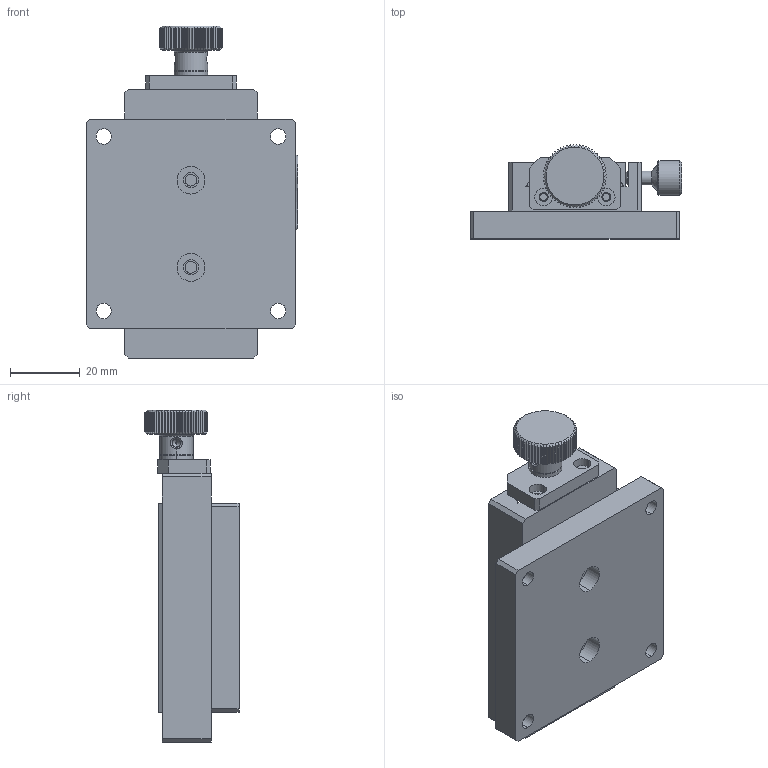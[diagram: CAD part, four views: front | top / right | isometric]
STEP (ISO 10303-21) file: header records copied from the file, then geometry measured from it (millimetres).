
FILE_DESCRIPTION((''),'2;1');
FILE_NAME('ASSY-30-R_ASM','2022-06-29T16:13:19',('windows10'),(''),'CREO PARAMETRIC BY PTC INC, 2018260','CREO PARAMETRIC BY PTC INC, 2018260','');
FILE_SCHEMA(('CONFIG_CONTROL_DESIGN'));
Length unit declared in the file: millimetre
Products named in the file (10): BASE-60-60-8-2HOLE; BOTTOM-38-77-15-F; TOP-28-60-15-M; HOLDER-HANDLE-30; MOVING-SCREW-M3-35; WHASHER; HANDLE-18-13; STOPPER-7H-M4-12D6; LEVER-7H; ASSY-30-R_ASM
Assembly tree (9 placements, depth 2):
  ASSY-30-R_ASM
    BASE-60-60-8-2HOLE
    BOTTOM-38-77-15-F
    TOP-28-60-15-M
    HOLDER-HANDLE-30
    MOVING-SCREW-M3-35
    WHASHER
    HANDLE-18-13
    STOPPER-7H-M4-12D6
    LEVER-7H
Bounding box: 60.6 x 26.99 x 95.2 mm (x, y, z)
Volume: 67954.9 mm3; surface area: 30806 mm2
Topology: 9 solids, 9 shells, 495 faces, 1278 edges, 820 vertices
Faces by surface type: plane 221, cylinder 184, cone 86, bspline 4
Entity records: 16434 total; most frequent: CARTESIAN_POINT 4231, ORIENTED_EDGE 2556, DIRECTION 2452, EDGE_CURVE 1278, AXIS2_PLACEMENT_3D 950, VERTEX_POINT 820, EDGE_LOOP 566, VECTOR 552
